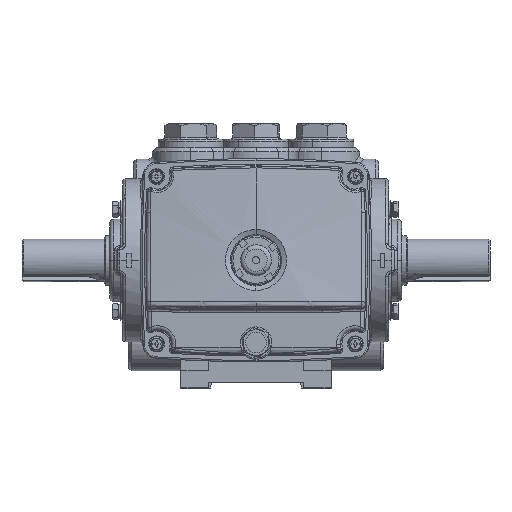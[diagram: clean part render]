
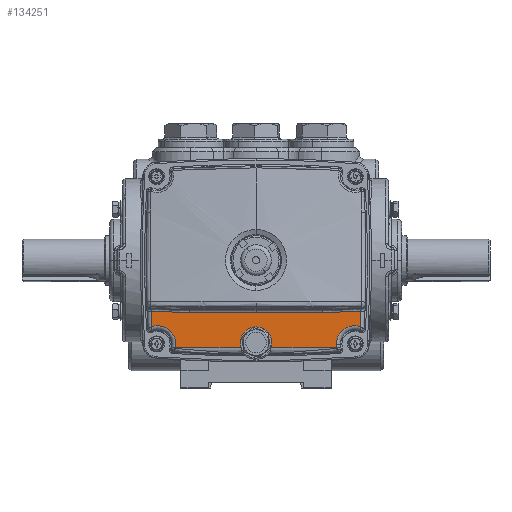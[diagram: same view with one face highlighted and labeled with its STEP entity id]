
A CAD part, top view. The second image highlights one B-rep face of the part: STEP entity #134251.
In plain terms, the highlighted planar face has unit normal (0, 0, 1).
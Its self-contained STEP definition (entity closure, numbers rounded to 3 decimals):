
#1586 = CARTESIAN_POINT ( 'NONE',  ( 73.846, -0.043, 265. ) ) ;
#1588 = CARTESIAN_POINT ( 'NONE',  ( 71.591, -0.223, 265. ) ) ;
#1590 = CARTESIAN_POINT ( 'NONE',  ( 69.333, -0.361, 265. ) ) ;
#1592 = CARTESIAN_POINT ( 'NONE',  ( 64.814, -0.579, 265. ) ) ;
#1594 = CARTESIAN_POINT ( 'NONE',  ( 62.554, -0.659, 265. ) ) ;
#1596 = CARTESIAN_POINT ( 'NONE',  ( 55.773, -0.837, 265. ) ) ;
#1598 = CARTESIAN_POINT ( 'NONE',  ( 51.25, -0.875, 265. ) ) ;
#1600 = CARTESIAN_POINT ( 'NONE',  ( 46.727, -0.875, 265. ) ) ;
#1628 = LINE ( 'NONE', #1630, #117485 ) ;
#1630 = CARTESIAN_POINT ( 'NONE',  ( 0., -0.875, 265. ) ) ;
#1632 = DIRECTION ( 'NONE',  ( -1., 0., 0. ) ) ;
#1658 = LINE ( 'NONE', #1660, #117498 ) ;
#1660 = CARTESIAN_POINT ( 'NONE',  ( -64.341, -0.875, 265. ) ) ;
#1662 = DIRECTION ( 'NONE',  ( -1., 0., 0. ) ) ;
#1720 = CARTESIAN_POINT ( 'NONE',  ( -46.727, -0.875, 265. ) ) ;
#1722 = CARTESIAN_POINT ( 'NONE',  ( -51.25, -0.875, 265. ) ) ;
#1724 = CARTESIAN_POINT ( 'NONE',  ( -55.773, -0.837, 265. ) ) ;
#1726 = CARTESIAN_POINT ( 'NONE',  ( -62.554, -0.659, 265. ) ) ;
#1728 = CARTESIAN_POINT ( 'NONE',  ( -64.814, -0.579, 265. ) ) ;
#1730 = CARTESIAN_POINT ( 'NONE',  ( -69.333, -0.361, 265. ) ) ;
#1732 = CARTESIAN_POINT ( 'NONE',  ( -71.591, -0.223, 265. ) ) ;
#1734 = CARTESIAN_POINT ( 'NONE',  ( -73.846, -0.043, 265. ) ) ;
#9334 = EDGE_CURVE ( 'NONE', #50250, #125663, #101941, .T. ) ;
#9654 = EDGE_CURVE ( 'NONE', #50541, #125762, #102027, .T. ) ;
#9666 = EDGE_CURVE ( 'NONE', #125705, #50551, #102031, .T. ) ;
#14132 = EDGE_LOOP ( 'NONE', ( #143531, #143418, #143777, #143711, #143511, #143676, #143360, #143505, #143491, #143476, #143582, #143562, #143684 ) ) ;
#19745 = CIRCLE ( 'NONE', #120455, 13. ) ;
#19766 = CIRCLE ( 'NONE', #120535, 11. ) ;
#30467 = EDGE_CURVE ( 'NONE', #125762, #125705, #19745, .T. ) ;
#30546 = EDGE_CURVE ( 'NONE', #125663, #125683, #19766, .T. ) ;
#41755 = FACE_OUTER_BOUND ( 'NONE', #14132, .T. ) ;
#41788 = AXIS2_PLACEMENT_3D ( 'NONE', #151369, #151370, #151371 ) ;
#50250 = VERTEX_POINT ( 'NONE', #64824 ) ;
#50541 = VERTEX_POINT ( 'NONE', #64885 ) ;
#50551 = VERTEX_POINT ( 'NONE', #64887 ) ;
#50593 = VERTEX_POINT ( 'NONE', #64897 ) ;
#50601 = VERTEX_POINT ( 'NONE', #64899 ) ;
#50608 = VERTEX_POINT ( 'NONE', #64901 ) ;
#50645 = VERTEX_POINT ( 'NONE', #64910 ) ;
#50655 = VERTEX_POINT ( 'NONE', #64912 ) ;
#50665 = VERTEX_POINT ( 'NONE', #64914 ) ;
#55595 = CARTESIAN_POINT ( 'NONE',  ( 69.579, -23.177, 265. ) ) ;
#55604 = DIRECTION ( 'NONE',  ( 0., 0., -1. ) ) ;
#55605 = DIRECTION ( 'NONE',  ( -1., 0., 0. ) ) ;
#55658 = CARTESIAN_POINT ( 'NONE',  ( -918.651, 36., 265. ) ) ;
#55664 = DIRECTION ( 'NONE',  ( 0., 0., 1. ) ) ;
#55665 = DIRECTION ( 'NONE',  ( -1., 0., 0. ) ) ;
#64824 = CARTESIAN_POINT ( 'NONE',  ( 10.385, -25.625, 265. ) ) ;
#64885 = CARTESIAN_POINT ( 'NONE',  ( 56.811, -25.625, 265. ) ) ;
#64887 = CARTESIAN_POINT ( 'NONE',  ( 73.846, -0.043, 265. ) ) ;
#64897 = CARTESIAN_POINT ( 'NONE',  ( -56.811, -25.625, 265. ) ) ;
#64899 = CARTESIAN_POINT ( 'NONE',  ( -73.399, -10.751, 265. ) ) ;
#64901 = CARTESIAN_POINT ( 'NONE',  ( -73.846, -0.043, 265. ) ) ;
#64910 = CARTESIAN_POINT ( 'NONE',  ( 46.727, -0.875, 265. ) ) ;
#64912 = CARTESIAN_POINT ( 'NONE',  ( 0., -0.875, 265. ) ) ;
#64914 = CARTESIAN_POINT ( 'NONE',  ( -46.727, -0.875, 265. ) ) ;
#76452 = LINE ( 'NONE', #76453, #117973 ) ;
#76453 = CARTESIAN_POINT ( 'NONE',  ( 0., -25.625, 265. ) ) ;
#76454 = DIRECTION ( 'NONE',  ( 1., 0., 0. ) ) ;
#76480 = LINE ( 'NONE', #76481, #117985 ) ;
#76481 = CARTESIAN_POINT ( 'NONE',  ( 0., -25.625, 265. ) ) ;
#76482 = DIRECTION ( 'NONE',  ( -1., 0., 0. ) ) ;
#85012 = AXIS2_PLACEMENT_3D ( 'NONE', #88049, #88052, #88055 ) ;
#85143 = AXIS2_PLACEMENT_3D ( 'NONE', #55595, #55604, #55605 ) ;
#85211 = AXIS2_PLACEMENT_3D ( 'NONE', #55658, #55664, #55665 ) ;
#88049 = CARTESIAN_POINT ( 'NONE',  ( 0., -22., 265. ) ) ;
#88052 = DIRECTION ( 'NONE',  ( 0., 0., 1. ) ) ;
#88055 = DIRECTION ( 'NONE',  ( -1., 0., 0. ) ) ;
#101941 = CIRCLE ( 'NONE', #85012, 11. ) ;
#102027 = CIRCLE ( 'NONE', #85143, 13. ) ;
#102031 = CIRCLE ( 'NONE', #85211, 993.151 ) ;
#111131 = EDGE_CURVE ( 'NONE', #50601, #50593, #208896, .T. ) ;
#111184 = EDGE_CURVE ( 'NONE', #50608, #50601, #208903, .T. ) ;
#111362 = EDGE_CURVE ( 'NONE', #50551, #50645, #115864, .T. ) ;
#111387 = EDGE_CURVE ( 'NONE', #50645, #50655, #1628, .T. ) ;
#111411 = EDGE_CURVE ( 'NONE', #50655, #50665, #1658, .T. ) ;
#111455 = EDGE_CURVE ( 'NONE', #50665, #50608, #115904, .T. ) ;
#112198 = EDGE_CURVE ( 'NONE', #50593, #125683, #76452, .T. ) ;
#112209 = EDGE_CURVE ( 'NONE', #50541, #50250, #76480, .T. ) ;
#115185 = CARTESIAN_POINT ( 'NONE',  ( -69.579, -23.177, 265. ) ) ;
#115193 = DIRECTION ( 'NONE',  ( 0., 0., -1. ) ) ;
#115195 = DIRECTION ( 'NONE',  ( -1., 0., 0. ) ) ;
#115271 = CARTESIAN_POINT ( 'NONE',  ( 918.651, 36., 265. ) ) ;
#115273 = DIRECTION ( 'NONE',  ( 0., 0., 1. ) ) ;
#115275 = DIRECTION ( 'NONE',  ( -1., 0., 0. ) ) ;
#115864 = B_SPLINE_CURVE_WITH_KNOTS ( 'NONE', 3,
 ( #1586, #1588, #1590, #1592, #1594, #1596, #1598, #1600 ),
 .UNSPECIFIED., .F., .F.,
 ( 4, 2, 2, 4 ),
 ( 0.003, 0.01, 0.017, 0.03 ),
 .UNSPECIFIED. ) ;
#115904 = B_SPLINE_CURVE_WITH_KNOTS ( 'NONE', 3,
 ( #1720, #1722, #1724, #1726, #1728, #1730, #1732, #1734 ),
 .UNSPECIFIED., .F., .F.,
 ( 4, 2, 2, 4 ),
 ( 0., 0.014, 0.02, 0.027 ),
 .UNSPECIFIED. ) ;
#117384 = AXIS2_PLACEMENT_3D ( 'NONE', #115185, #115193, #115195 ) ;
#117408 = AXIS2_PLACEMENT_3D ( 'NONE', #115271, #115273, #115275 ) ;
#117485 = VECTOR ( 'NONE', #1632, 1000. ) ;
#117498 = VECTOR ( 'NONE', #1662, 1000. ) ;
#117973 = VECTOR ( 'NONE', #76454, 1000. ) ;
#117985 = VECTOR ( 'NONE', #76482, 1000. ) ;
#120455 = AXIS2_PLACEMENT_3D ( 'NONE', #187988, #187990, #187991 ) ;
#120535 = AXIS2_PLACEMENT_3D ( 'NONE', #188437, #188441, #188442 ) ;
#125663 = VERTEX_POINT ( 'NONE', #161901 ) ;
#125683 = VERTEX_POINT ( 'NONE', #161911 ) ;
#125705 = VERTEX_POINT ( 'NONE', #161921 ) ;
#125762 = VERTEX_POINT ( 'NONE', #161955 ) ;
#134251 = ADVANCED_FACE ( 'NONE', ( #41755 ), #151368, .T. ) ;
#143360 = ORIENTED_EDGE ( 'NONE', *, *, #111387, .T. ) ;
#143418 = ORIENTED_EDGE ( 'NONE', *, *, #112209, .F. ) ;
#143476 = ORIENTED_EDGE ( 'NONE', *, *, #111184, .T. ) ;
#143491 = ORIENTED_EDGE ( 'NONE', *, *, #111455, .T. ) ;
#143505 = ORIENTED_EDGE ( 'NONE', *, *, #111411, .T. ) ;
#143511 = ORIENTED_EDGE ( 'NONE', *, *, #9666, .T. ) ;
#143531 = ORIENTED_EDGE ( 'NONE', *, *, #9334, .F. ) ;
#143562 = ORIENTED_EDGE ( 'NONE', *, *, #112198, .T. ) ;
#143582 = ORIENTED_EDGE ( 'NONE', *, *, #111131, .T. ) ;
#143676 = ORIENTED_EDGE ( 'NONE', *, *, #111362, .T. ) ;
#143684 = ORIENTED_EDGE ( 'NONE', *, *, #30546, .F. ) ;
#143711 = ORIENTED_EDGE ( 'NONE', *, *, #30467, .T. ) ;
#143777 = ORIENTED_EDGE ( 'NONE', *, *, #9654, .T. ) ;
#151368 = PLANE ( 'NONE',  #41788 ) ;
#151369 = CARTESIAN_POINT ( 'NONE',  ( 0., 1.125, 265. ) ) ;
#151370 = DIRECTION ( 'NONE',  ( 0., 0., 1. ) ) ;
#151371 = DIRECTION ( 'NONE',  ( -1., 0., 0. ) ) ;
#161901 = CARTESIAN_POINT ( 'NONE',  ( -1.85, -11.157, 265. ) ) ;
#161911 = CARTESIAN_POINT ( 'NONE',  ( -10.385, -25.625, 265. ) ) ;
#161921 = CARTESIAN_POINT ( 'NONE',  ( 73.399, -10.751, 265. ) ) ;
#161955 = CARTESIAN_POINT ( 'NONE',  ( 56.579, -23.177, 265. ) ) ;
#187988 = CARTESIAN_POINT ( 'NONE',  ( 69.579, -23.177, 265. ) ) ;
#187990 = DIRECTION ( 'NONE',  ( 0., 0., -1. ) ) ;
#187991 = DIRECTION ( 'NONE',  ( -1., 0., 0. ) ) ;
#188437 = CARTESIAN_POINT ( 'NONE',  ( 0., -22., 265. ) ) ;
#188441 = DIRECTION ( 'NONE',  ( 0., 0., 1. ) ) ;
#188442 = DIRECTION ( 'NONE',  ( -1., 0., 0. ) ) ;
#208896 = CIRCLE ( 'NONE', #117384, 13. ) ;
#208903 = CIRCLE ( 'NONE', #117408, 993.151 ) ;
